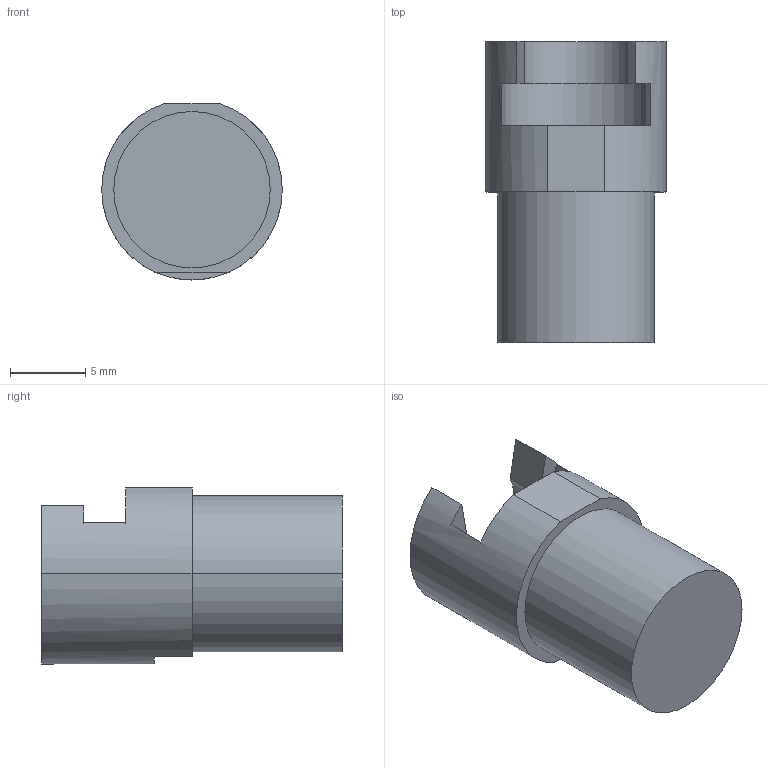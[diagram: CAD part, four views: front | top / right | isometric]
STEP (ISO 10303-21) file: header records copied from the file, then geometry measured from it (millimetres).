
FILE_DESCRIPTION (( 'STEP AP214' ), '1' );
FILE_NAME ('_Fronthalter_K760004200_Einpressen.step', '2010-09-07T12:37:12', ( 'grass' ), ( '' ), 'SwSTEP 2.0', 'SolidWorks 2010', '' );
FILE_SCHEMA (( 'AUTOMOTIVE_DESIGN' ));
Length unit declared in the file: millimetre
Products named in the file (1): _Fronthalter_K760004200_Einpressen
Bounding box: 12 x 20 x 11.7 mm (x, y, z)
Volume: 1406 mm3; surface area: 1134.6 mm2
Topology: 1 solids, 1 shells, 26 faces, 66 edges, 44 vertices
Faces by surface type: cylinder 13, plane 13
Entity records: 836 total; most frequent: DIRECTION 152, CARTESIAN_POINT 137, ORIENTED_EDGE 132, EDGE_CURVE 66, AXIS2_PLACEMENT_3D 59, VERTEX_POINT 44, VECTOR 34, LINE 34
